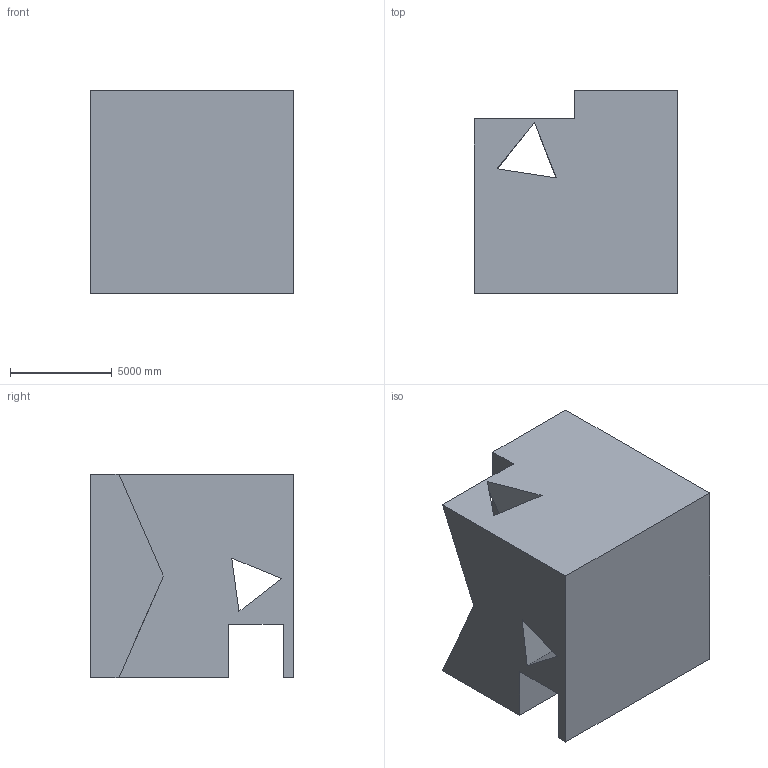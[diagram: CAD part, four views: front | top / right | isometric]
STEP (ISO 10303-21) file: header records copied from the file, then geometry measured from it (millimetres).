
FILE_DESCRIPTION (( 'STEP AP203' ), '1' );
FILE_NAME ('596.STEP', '2022-07-29T12:00:18', ( 'user' ), ( '' ), 'SwSTEP 2.0', 'SolidWorks 2021', '' );
FILE_SCHEMA (( 'CONFIG_CONTROL_DESIGN' ));
Length unit declared in the file: centimetre
Products named in the file (1): 596
Bounding box: 10000 x 10000 x 10000 mm (x, y, z)
Volume: 740664204746 mm3; surface area: 750213677.9 mm2
Topology: 1 solids, 1 shells, 28 faces, 84 edges, 56 vertices
Faces by surface type: plane 28
Entity records: 1017 total; most frequent: CARTESIAN_POINT 169, ORIENTED_EDGE 168, DIRECTION 142, VECTOR 84, LINE 84, EDGE_CURVE 84, VERTEX_POINT 56, EDGE_LOOP 32
